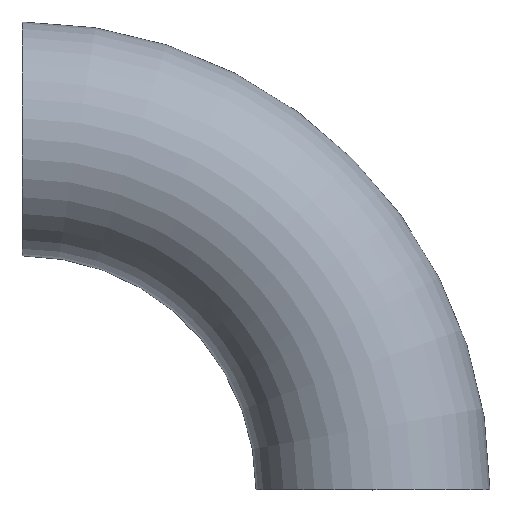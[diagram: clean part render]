
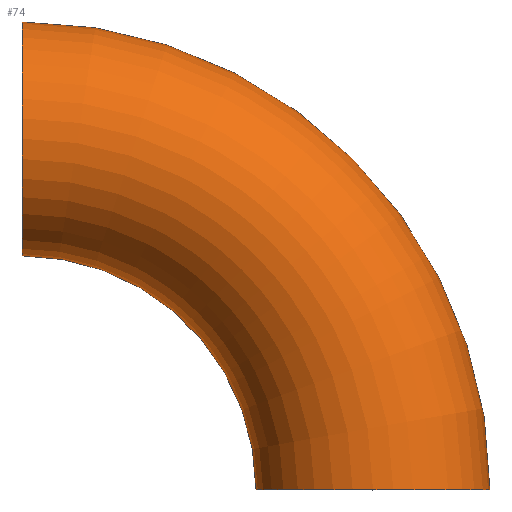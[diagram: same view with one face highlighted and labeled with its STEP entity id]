
A CAD part, top view. The second image highlights one B-rep face of the part: STEP entity #74.
In plain terms, the highlighted toroidal (fillet/blend) face has major radius 114.3 mm and minor radius 38.1 mm.
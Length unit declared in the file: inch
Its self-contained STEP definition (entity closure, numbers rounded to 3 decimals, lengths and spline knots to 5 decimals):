
#7 = TOROIDAL_SURFACE ( 'NONE', #16, 4.5, 1.5 ) ;
#14 = DIRECTION ( 'NONE',  ( 0., 0., -1. ) ) ;
#15 = CARTESIAN_POINT ( 'NONE',  ( 0., 3., 0. ) ) ;
#16 = AXIS2_PLACEMENT_3D ( 'NONE', #101, #239, #205 ) ;
#17 = ORIENTED_EDGE ( 'NONE', *, *, #176, .T. ) ;
#27 = CARTESIAN_POINT ( 'NONE',  ( 0., 0., 0. ) ) ;
#29 = DIRECTION ( 'NONE',  ( 0., 0., 1. ) ) ;
#33 = CIRCLE ( 'NONE', #67, 3. ) ;
#41 = DIRECTION ( 'NONE',  ( -1., 0., 0. ) ) ;
#43 = EDGE_LOOP ( 'NONE', ( #242, #47, #183, #17 ) ) ;
#45 = CARTESIAN_POINT ( 'NONE',  ( 0., 6., 0. ) ) ;
#47 = ORIENTED_EDGE ( 'NONE', *, *, #222, .F. ) ;
#58 = CARTESIAN_POINT ( 'NONE',  ( 6., 0., 0. ) ) ;
#60 = AXIS2_PLACEMENT_3D ( 'NONE', #228, #117, #69 ) ;
#67 = AXIS2_PLACEMENT_3D ( 'NONE', #27, #14, #41 ) ;
#68 = AXIS2_PLACEMENT_3D ( 'NONE', #255, #208, #29 ) ;
#69 = DIRECTION ( 'NONE',  ( -1., 0., 0. ) ) ;
#74 = ADVANCED_FACE ( 'NONE', ( #147 ), #7, .T. ) ;
#94 = CIRCLE ( 'NONE', #60, 6. ) ;
#96 = VERTEX_POINT ( 'NONE', #58 ) ;
#99 = VERTEX_POINT ( 'NONE', #15 ) ;
#101 = CARTESIAN_POINT ( 'NONE',  ( 0., 0., 0. ) ) ;
#117 = DIRECTION ( 'NONE',  ( 0., 0., -1. ) ) ;
#130 = VERTEX_POINT ( 'NONE', #45 ) ;
#147 = FACE_OUTER_BOUND ( 'NONE', #43, .T. ) ;
#148 = CIRCLE ( 'NONE', #200, 1.5 ) ;
#149 = EDGE_CURVE ( 'NONE', #130, #96, #94, .T. ) ;
#167 = CIRCLE ( 'NONE', #68, 1.5 ) ;
#168 = EDGE_CURVE ( 'NONE', #99, #225, #33, .T. ) ;
#176 = EDGE_CURVE ( 'NONE', #225, #96, #167, .T. ) ;
#183 = ORIENTED_EDGE ( 'NONE', *, *, #168, .T. ) ;
#200 = AXIS2_PLACEMENT_3D ( 'NONE', #256, #254, #252 ) ;
#203 = CARTESIAN_POINT ( 'NONE',  ( 3., 0., 0. ) ) ;
#205 = DIRECTION ( 'NONE',  ( -1., 0., 0. ) ) ;
#208 = DIRECTION ( 'NONE',  ( 0., 1., 0. ) ) ;
#222 = EDGE_CURVE ( 'NONE', #99, #130, #148, .T. ) ;
#225 = VERTEX_POINT ( 'NONE', #203 ) ;
#228 = CARTESIAN_POINT ( 'NONE',  ( 0., 0., 0. ) ) ;
#239 = DIRECTION ( 'NONE',  ( 0., 0., -1. ) ) ;
#242 = ORIENTED_EDGE ( 'NONE', *, *, #149, .F. ) ;
#252 = DIRECTION ( 'NONE',  ( 0., 0., 1. ) ) ;
#254 = DIRECTION ( 'NONE',  ( -1., 0., 0. ) ) ;
#255 = CARTESIAN_POINT ( 'NONE',  ( 4.5, 0., 0. ) ) ;
#256 = CARTESIAN_POINT ( 'NONE',  ( 0., 4.5, 0. ) ) ;
